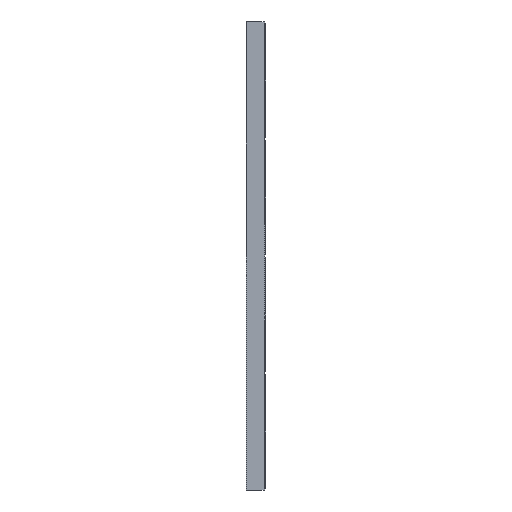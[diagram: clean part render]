
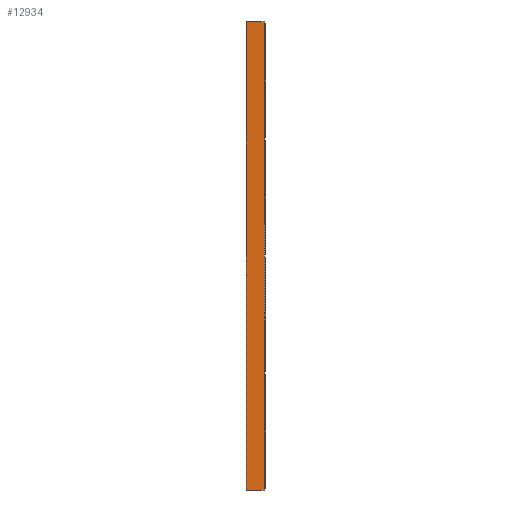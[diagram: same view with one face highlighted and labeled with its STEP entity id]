
A CAD part, front view. The second image highlights one B-rep face of the part: STEP entity #12934.
In plain terms, the highlighted planar face has unit normal (0, -1, 0).
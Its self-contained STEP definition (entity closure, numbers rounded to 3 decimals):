
#560=PLANE('',#13866);
#1295=FACE_OUTER_BOUND('',#2116,.T.);
#2116=EDGE_LOOP('',(#11923,#11924,#11925,#11926,#11927,#11928,#11929));
#2964=LINE('',#22268,#4212);
#3037=LINE('',#23478,#4285);
#3682=LINE('',#34345,#4930);
#3686=LINE('',#34350,#4934);
#3970=LINE('',#39175,#5218);
#3971=LINE('',#39177,#5219);
#3977=LINE('',#39407,#5225);
#4212=VECTOR('',#14543,10.);
#4285=VECTOR('',#14710,10.);
#4930=VECTOR('',#16201,10.);
#4934=VECTOR('',#16207,10.);
#5218=VECTOR('',#16869,10.);
#5219=VECTOR('',#16872,10.);
#5225=VECTOR('',#16882,10.);
#5669=VERTEX_POINT('',#22265);
#5670=VERTEX_POINT('',#22267);
#5725=VERTEX_POINT('',#23476);
#6208=VERTEX_POINT('',#34342);
#6209=VERTEX_POINT('',#34344);
#6420=VERTEX_POINT('',#39171);
#6421=VERTEX_POINT('',#39173);
#6930=EDGE_CURVE('',#5669,#5670,#2964,.T.);
#7026=EDGE_CURVE('',#5725,#5669,#3037,.T.);
#7878=EDGE_CURVE('',#6208,#6209,#3682,.T.);
#7882=EDGE_CURVE('',#6209,#5725,#3686,.T.);
#8258=EDGE_CURVE('',#6420,#6421,#3970,.T.);
#8259=EDGE_CURVE('',#6208,#6420,#3971,.T.);
#8268=EDGE_CURVE('',#5670,#6421,#3977,.T.);
#11923=ORIENTED_EDGE('',*,*,#8268,.F.);
#11924=ORIENTED_EDGE('',*,*,#6930,.F.);
#11925=ORIENTED_EDGE('',*,*,#7026,.F.);
#11926=ORIENTED_EDGE('',*,*,#7882,.F.);
#11927=ORIENTED_EDGE('',*,*,#7878,.F.);
#11928=ORIENTED_EDGE('',*,*,#8259,.T.);
#11929=ORIENTED_EDGE('',*,*,#8258,.T.);
#12934=ADVANCED_FACE('',(#1295),#560,.T.);
#13866=AXIS2_PLACEMENT_3D('',#39414,#16892,#16893);
#14543=DIRECTION('',(0.,0.,-1.));
#14710=DIRECTION('',(0.,0.,-1.));
#16201=DIRECTION('',(1.,0.,0.));
#16207=DIRECTION('',(0.,0.,-1.));
#16869=DIRECTION('',(1.,0.,0.));
#16872=DIRECTION('',(0.,0.,-1.));
#16882=DIRECTION('',(0.,0.,-1.));
#16892=DIRECTION('center_axis',(0.,-1.,0.));
#16893=DIRECTION('ref_axis',(0.,0.,1.));
#22265=CARTESIAN_POINT('',(-0.5,-21.,57.622));
#22267=CARTESIAN_POINT('',(-0.5,-21.,21.249));
#22268=CARTESIAN_POINT('',(-0.5,-21.,30.311));
#23476=CARTESIAN_POINT('',(-0.5,-21.,93.995));
#23478=CARTESIAN_POINT('',(-0.5,-21.,66.684));
#34342=CARTESIAN_POINT('',(-6.,-21.,130.368));
#34344=CARTESIAN_POINT('',(-0.5,-21.,130.368));
#34345=CARTESIAN_POINT('',(-6.,-21.,130.368));
#34350=CARTESIAN_POINT('',(-0.5,-21.,103.057));
#39171=CARTESIAN_POINT('',(-6.,-21.,-15.124));
#39173=CARTESIAN_POINT('',(-0.5,-21.,-15.124));
#39175=CARTESIAN_POINT('',(-6.,-21.,-15.124));
#39177=CARTESIAN_POINT('',(-6.,-21.,21.));
#39407=CARTESIAN_POINT('',(-0.5,-21.,-6.062));
#39414=CARTESIAN_POINT('Origin',(0.,-21.,-12.124));
